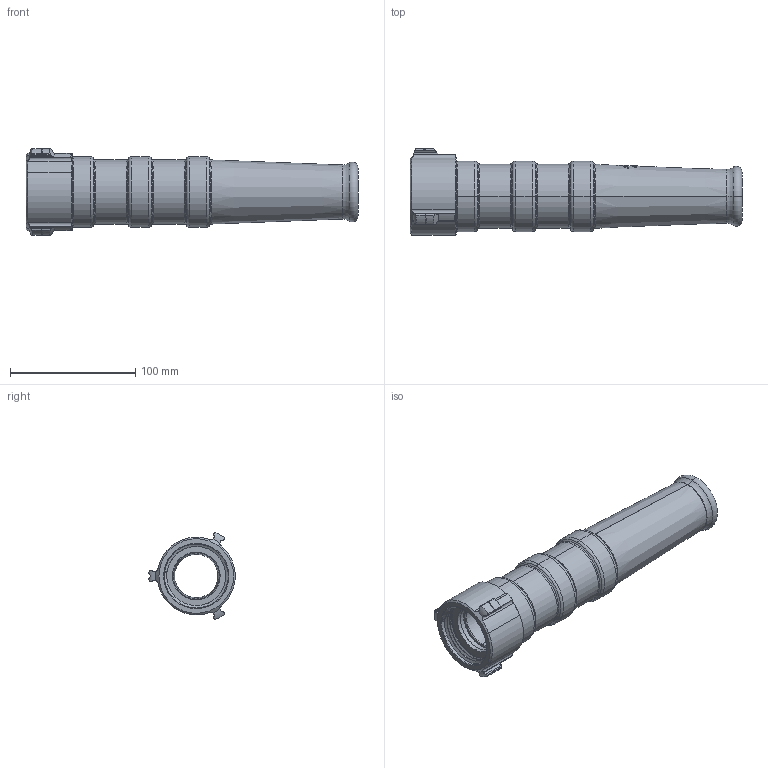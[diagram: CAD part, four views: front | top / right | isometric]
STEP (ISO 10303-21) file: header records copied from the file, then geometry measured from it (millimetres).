
FILE_DESCRIPTION (( 'STEP AP203' ), '1' );
FILE_NAME ('FSS13-CAFS.step', '2014-05-13T19:32:04', ( 'user' ), ( '' ), 'SwSTEP 2.0', 'SolidWorks 2012', '' );
FILE_SCHEMA (( 'CONFIG_CONTROL_DESIGN' ));
Length unit declared in the file: inch
Products named in the file (1): FSS13-CAFS
Bounding box: 265.43 x 68.98 x 69.18 mm (x, y, z)
Surface area: 95943.9 mm2 (no closed solid volume)
Topology: 0 solids, 8 shells, 302 faces, 911 edges, 609 vertices
Faces by surface type: plane 111, cylinder 87, cone 44, torus 38, bspline 22
Entity records: 12262 total; most frequent: CARTESIAN_POINT 4980, ORIENTED_EDGE 1608, DIRECTION 1288, EDGE_CURVE 911, VERTEX_POINT 609, AXIS2_PLACEMENT_3D 499, EDGE_LOOP 322, FACE_OUTER_BOUND 302
